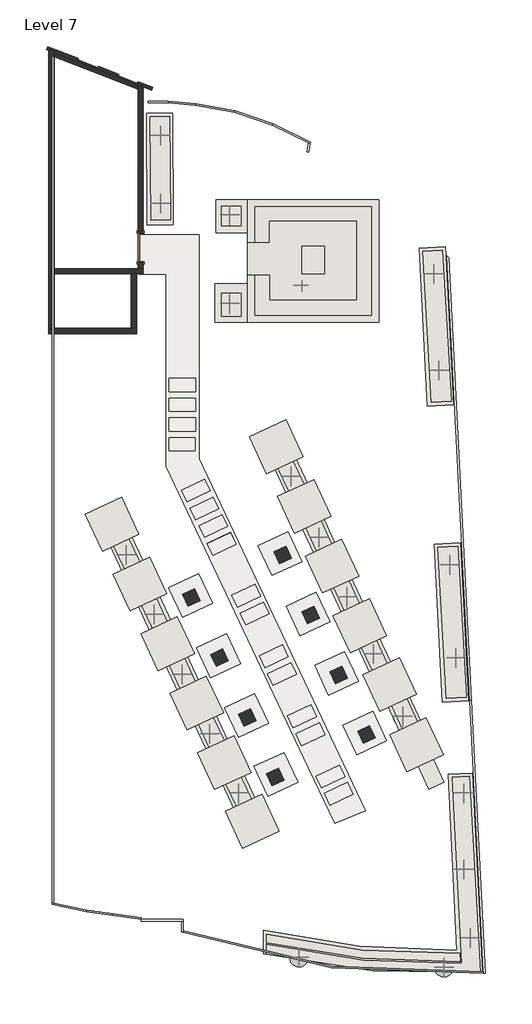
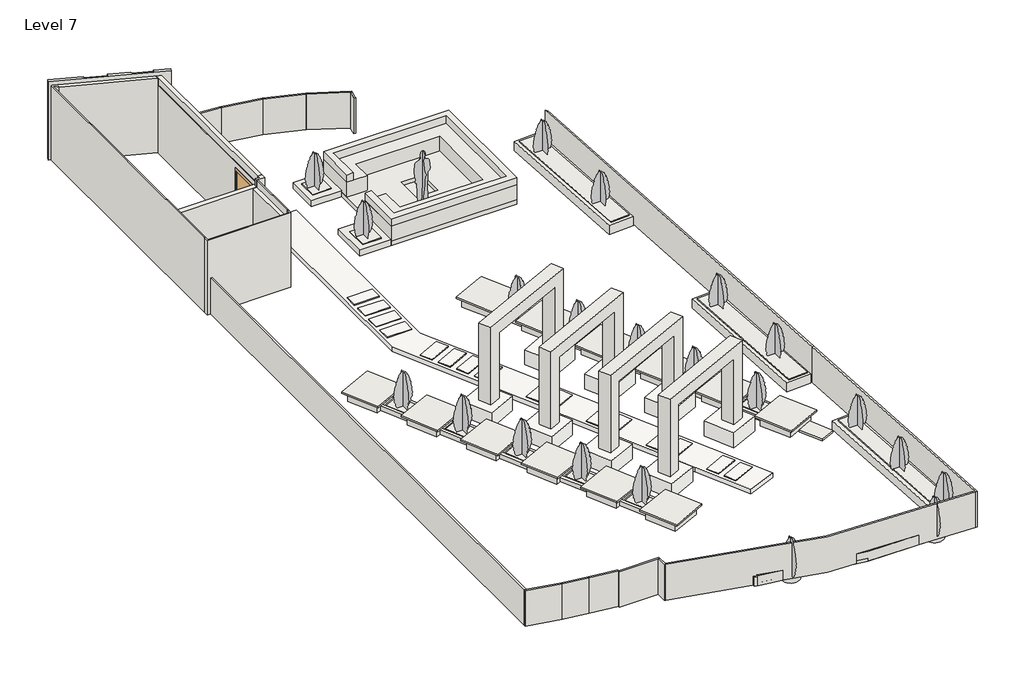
# One storey, incomplete: 27 walls, 23 geographic elements, 3 slabs, 1 door, 1 proxy.
"""IFC4 building model written with IfcOpenShell, lengths in millimetres."""

from ifc_helpers import new_model, si_unit, point, frame, frame_2d, origin, place, context, project, spatial, polyline, circle_curve, trimmed, segment, composite_curve, outline, extrude, faceted_brep, transform, mapped, element, save
from ifc_brep_helpers import plane_surface, cylinder_surface, revolved_surface, advanced_brep
from components import m_rpc_male_e00c4429, m_single_flush_0864_x_2032mm_76ab4baa, m_rpc_tree_conifer_chinese_juniper_2_14_meters_d82f7841, wall_b374dac2, wall_d6dfb486, wall_0885565c, wall_29d2bf6c, wall_ab537ee6, fire_place_fire_place_b6a90d6d

model = new_model("IFC4")

# Units and contexts
model_context = context("Model", 3, world=origin())
ifc_project = project(units=[si_unit("LENGTHUNIT", "METRE", prefix="MILLI")], contexts=[model_context])

# Site, building, storey
site = spatial("IfcSite", under=ifc_project)
building = spatial("IfcBuilding", under=site)
storey = spatial("IfcBuildingStorey", under=building, Name="Level 7", Elevation=25500.0)

# Proxy
placement = place(None, origin())
m_rpc_male_shape = m_rpc_male_e00c4429(model_context)
element("IfcBuildingElementProxy", 1, Name="M_RPC Male : Dwayne", ObjectType="M_RPC Male : Dwayne", at=placement, inside=storey, context=model_context, shape_type="MappedRepresentation", body=[
    mapped(m_rpc_male_shape, transform((7491.7645335, 8007.5417386, 25650.0), x_axis=(-1.0000000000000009, 0.0, 0.0), y_axis=(0.0, -1.0000000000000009, 0.0), z_axis=(0.0, 0.0, 1.0))),
])

# Door
m_single_flush_0864_x_2032mm_shape = m_single_flush_0864_x_2032mm_76ab4baa(model_context)
element("IfcDoor", 2, ObjectType="M_Single-Flush : 0864 x 2032mm", at=placement, inside=storey, context=model_context, shape_type="MappedRepresentation", body=[
    mapped(m_single_flush_0864_x_2032mm_shape, transform((2611.8607589, 9154.692564, 25500.0), x_axis=(0.0, -1.0, 0.0), y_axis=(1.0, 0.0, 0.0), z_axis=(0.0, 0.0, 1.0))),
])

# Geographic elements
m_rpc_tree_conifer_chinese_juniper_2_14_meters_shape = m_rpc_tree_conifer_chinese_juniper_2_14_meters_d82f7841(model_context)
element("IfcGeographicElement", 3, ObjectType="M_RPC Tree - Conifer : Chinese Juniper - 2.14 Meters", at=placement, inside=storey, context=model_context, shape_type="MappedRepresentation", body=[
    mapped(m_rpc_tree_conifer_chinese_juniper_2_14_meters_shape, transform((7170.4565309, 2214.7327762, 25500.0), x_axis=(1.0, 0.0, 0.0), y_axis=(0.0, 1.0, 0.0), z_axis=(0.0, 0.0, 1.0))),
])
element("IfcGeographicElement", 4, ObjectType="M_RPC Tree - Conifer : Chinese Juniper - 2.14 Meters", at=placement, inside=storey, context=model_context, shape_type="MappedRepresentation", body=[
    mapped(m_rpc_tree_conifer_chinese_juniper_2_14_meters_shape, transform((8032.5977848, 365.8648907, 25500.0), x_axis=(1.0, 0.0, 0.0), y_axis=(0.0, 1.0, 0.0), z_axis=(0.0, 0.0, 1.0))),
])
element("IfcGeographicElement", 5, ObjectType="M_RPC Tree - Conifer : Chinese Juniper - 2.14 Meters", at=placement, inside=storey, context=model_context, shape_type="MappedRepresentation", body=[
    mapped(m_rpc_tree_conifer_chinese_juniper_2_14_meters_shape, transform((8877.8343083, -1446.7506834, 25500.0), x_axis=(1.0, 0.0, 0.0), y_axis=(0.0, 1.0, 0.0), z_axis=(0.0, 0.0, 1.0))),
])
element("IfcGeographicElement", 6, ObjectType="M_RPC Tree - Conifer : Chinese Juniper - 2.14 Meters", at=placement, inside=storey, context=model_context, shape_type="MappedRepresentation", body=[
    mapped(m_rpc_tree_conifer_chinese_juniper_2_14_meters_shape, transform((9680.8090056, -3168.7354788, 25500.0), x_axis=(1.0, 0.0, 0.0), y_axis=(0.0, 1.0, 0.0), z_axis=(0.0, 0.0, 1.0))),
])
element("IfcGeographicElement", 7, ObjectType="M_RPC Tree - Conifer : Chinese Juniper - 2.14 Meters", at=placement, inside=storey, context=model_context, shape_type="MappedRepresentation", body=[
    mapped(m_rpc_tree_conifer_chinese_juniper_2_14_meters_shape, transform((10568.3073553, -5071.9818316, 25500.0), x_axis=(1.0, 0.0, 0.0), y_axis=(0.0, 1.0, 0.0), z_axis=(0.0, 0.0, 1.0))),
])
element("IfcGeographicElement", 8, ObjectType="M_RPC Tree - Conifer : Chinese Juniper - 2.14 Meters", at=placement, inside=storey, context=model_context, shape_type="MappedRepresentation", body=[
    mapped(m_rpc_tree_conifer_chinese_juniper_2_14_meters_shape, transform((5583.6145266, -7396.3822711, 25500.0), x_axis=(1.0, 0.0, 0.0), y_axis=(0.0, 1.0, 0.0), z_axis=(0.0, 0.0, 1.0))),
])
element("IfcGeographicElement", 9, ObjectType="M_RPC Tree - Conifer : Chinese Juniper - 2.14 Meters", at=placement, inside=storey, context=model_context, shape_type="MappedRepresentation", body=[
    mapped(m_rpc_tree_conifer_chinese_juniper_2_14_meters_shape, transform((4706.872233, -5598.7941785, 25500.0), x_axis=(1.0, 0.0, 0.0), y_axis=(0.0, 1.0, 0.0), z_axis=(0.0, 0.0, 1.0))),
])
element("IfcGeographicElement", 10, ObjectType="M_RPC Tree - Conifer : Chinese Juniper - 2.14 Meters", at=placement, inside=storey, context=model_context, shape_type="MappedRepresentation", body=[
    mapped(m_rpc_tree_conifer_chinese_juniper_2_14_meters_shape, transform((3861.6357095, -3786.1786045, 25500.0), x_axis=(1.0, 0.0, 0.0), y_axis=(0.0, 1.0, 0.0), z_axis=(0.0, 0.0, 1.0))),
])
element("IfcGeographicElement", 11, ObjectType="M_RPC Tree - Conifer : Chinese Juniper - 2.14 Meters", at=placement, inside=storey, context=model_context, shape_type="MappedRepresentation", body=[
    mapped(m_rpc_tree_conifer_chinese_juniper_2_14_meters_shape, transform((3016.399186, -1973.5630304, 25500.0), x_axis=(1.0, 0.0, 0.0), y_axis=(0.0, 1.0, 0.0), z_axis=(0.0, 0.0, 1.0))),
])
element("IfcGeographicElement", 12, ObjectType="M_RPC Tree - Conifer : Chinese Juniper - 2.14 Meters", at=placement, inside=storey, context=model_context, shape_type="MappedRepresentation", body=[
    mapped(m_rpc_tree_conifer_chinese_juniper_2_14_meters_shape, transform((2171.1626625, -160.9474563, 25500.0), x_axis=(1.0, 0.0, 0.0), y_axis=(0.0, 1.0, 0.0), z_axis=(0.0, 0.0, 1.0))),
])
element("IfcGeographicElement", 13, ObjectType="M_RPC Tree - Conifer : Chinese Juniper - 2.14 Meters", at=placement, inside=storey, context=model_context, shape_type="MappedRepresentation", body=[
    mapped(m_rpc_tree_conifer_chinese_juniper_2_14_meters_shape, transform((12003.8470008, -465.2672238, 25500.0), x_axis=(1.0, 0.0, 0.0), y_axis=(0.0, 1.0, 0.0), z_axis=(0.0, 0.0, 1.0))),
])
element("IfcGeographicElement", 14, ObjectType="M_RPC Tree - Conifer : Chinese Juniper - 2.14 Meters", at=placement, inside=storey, context=model_context, shape_type="MappedRepresentation", body=[
    mapped(m_rpc_tree_conifer_chinese_juniper_2_14_meters_shape, transform((12183.8470008, -3288.7354788, 25500.0), x_axis=(1.0, 0.0, 0.0), y_axis=(0.0, 1.0, 0.0), z_axis=(0.0, 0.0, 1.0))),
])
element("IfcGeographicElement", 15, ObjectType="M_RPC Tree - Conifer : Chinese Juniper - 2.14 Meters", at=placement, inside=storey, context=model_context, shape_type="MappedRepresentation", body=[
    mapped(m_rpc_tree_conifer_chinese_juniper_2_14_meters_shape, transform((12622.8617757, -11792.4582614, 25500.0), x_axis=(1.0, 0.0, 0.0), y_axis=(0.0, 1.0, 0.0), z_axis=(0.0, 0.0, 1.0))),
])
element("IfcGeographicElement", 16, ObjectType="M_RPC Tree - Conifer : Chinese Juniper - 2.14 Meters", at=placement, inside=storey, context=model_context, shape_type="MappedRepresentation", body=[
    mapped(m_rpc_tree_conifer_chinese_juniper_2_14_meters_shape, transform((12422.8617757, -9712.4582614, 25500.0), x_axis=(1.0, 0.0, 0.0), y_axis=(0.0, 1.0, 0.0), z_axis=(0.0, 0.0, 1.0))),
])
element("IfcGeographicElement", 17, ObjectType="M_RPC Tree - Conifer : Chinese Juniper - 2.14 Meters", at=placement, inside=storey, context=model_context, shape_type="MappedRepresentation", body=[
    mapped(m_rpc_tree_conifer_chinese_juniper_2_14_meters_shape, transform((12422.8617757, -7396.3822711, 25500.0), x_axis=(1.0, 0.0, 0.0), y_axis=(0.0, 1.0, 0.0), z_axis=(0.0, 0.0, 1.0))),
])
element("IfcGeographicElement", 18, ObjectType="M_RPC Tree - Conifer : Chinese Juniper - 2.14 Meters", at=placement, inside=storey, context=model_context, shape_type="MappedRepresentation", body=[
    mapped(m_rpc_tree_conifer_chinese_juniper_2_14_meters_shape, transform((11822.8617757, -12686.9456492, 25500.0), x_axis=(1.0, 0.0, 0.0), y_axis=(0.0, 1.0, 0.0), z_axis=(0.0, 0.0, 1.0))),
])
element("IfcGeographicElement", 19, ObjectType="M_RPC Tree - Conifer : Chinese Juniper - 2.14 Meters", at=placement, inside=storey, context=model_context, shape_type="MappedRepresentation", body=[
    mapped(m_rpc_tree_conifer_chinese_juniper_2_14_meters_shape, transform((7422.8617757, -12386.9456492, 25500.0), x_axis=(1.0, 0.0, 0.0), y_axis=(0.0, 1.0, 0.0), z_axis=(0.0, 0.0, 1.0))),
])
element("IfcGeographicElement", 20, ObjectType="M_RPC Tree - Conifer : Chinese Juniper - 2.14 Meters", at=placement, inside=storey, context=model_context, shape_type="MappedRepresentation", body=[
    mapped(m_rpc_tree_conifer_chinese_juniper_2_14_meters_shape, transform((11516.6863407, 8359.6937664, 25500.0), x_axis=(1.0, 0.0, 0.0), y_axis=(0.0, 1.0, 0.0), z_axis=(0.0, 0.0, 1.0))),
])
element("IfcGeographicElement", 21, ObjectType="M_RPC Tree - Conifer : Chinese Juniper - 2.14 Meters", at=placement, inside=storey, context=model_context, shape_type="MappedRepresentation", body=[
    mapped(m_rpc_tree_conifer_chinese_juniper_2_14_meters_shape, transform((11670.4565309, 5439.689555, 25500.0), x_axis=(1.0, 0.0, 0.0), y_axis=(0.0, 1.0, 0.0), z_axis=(0.0, 0.0, 1.0))),
])
element("IfcGeographicElement", 22, ObjectType="M_RPC Tree - Conifer : Chinese Juniper - 2.14 Meters", at=placement, inside=storey, context=model_context, shape_type="MappedRepresentation", body=[
    mapped(m_rpc_tree_conifer_chinese_juniper_2_14_meters_shape, transform((5308.6187034, 10145.363824, 25500.0), x_axis=(1.0, 0.0, 0.0), y_axis=(0.0, 1.0, 0.0), z_axis=(0.0, 0.0, 1.0))),
])
element("IfcGeographicElement", 23, ObjectType="M_RPC Tree - Conifer : Chinese Juniper - 2.14 Meters", at=placement, inside=storey, context=model_context, shape_type="MappedRepresentation", body=[
    mapped(m_rpc_tree_conifer_chinese_juniper_2_14_meters_shape, transform((5308.6187034, 7459.6937664, 25500.0), x_axis=(1.0, 0.0, 0.0), y_axis=(0.0, 1.0, 0.0), z_axis=(0.0, 0.0, 1.0))),
])
element("IfcGeographicElement", 24, ObjectType="M_RPC Tree - Conifer : Chinese Juniper - 2.14 Meters", at=placement, inside=storey, context=model_context, shape_type="MappedRepresentation", body=[
    mapped(m_rpc_tree_conifer_chinese_juniper_2_14_meters_shape, transform((3209.9147134, 12563.9165801, 25500.0), x_axis=(1.0, 0.0, 0.0), y_axis=(0.0, 1.0, 0.0), z_axis=(0.0, 0.0, 1.0))),
])
element("IfcGeographicElement", 25, ObjectType="M_RPC Tree - Conifer : Chinese Juniper - 2.14 Meters", at=placement, inside=storey, context=model_context, shape_type="MappedRepresentation", body=[
    mapped(m_rpc_tree_conifer_chinese_juniper_2_14_meters_shape, transform((3209.9147134, 10507.9905704, 25500.0), x_axis=(1.0, 0.0, 0.0), y_axis=(0.0, 1.0, 0.0), z_axis=(0.0, 0.0, 1.0))),
])

# Slabs
element("IfcSlab", 26, ObjectType="sang baam", at=placement, inside=storey, context=model_context, shape_type="SweptSolid", body=[
    extrude(outline(polyline([(4278.6366048, 5185.9149632), (4278.6366048, 4785.9149632), (3478.6366048, 4785.9149632), (3478.6366048, 5185.9149632), (4278.6366048, 5185.9149632)])), frame((0.0, 0.0, 25475.0), z_axis=(0.0, 0.0, 1.0), x_axis=(1.0, 0.0, 0.0)), (0.0, 0.0, 1.0), 150.0),
    extrude(outline(polyline([(4278.6366048, 4185.9149632), (3478.6366048, 4185.9149632), (3478.6366048, 4585.9149632), (4278.6366048, 4585.9149632), (4278.6366048, 4185.9149632)])), frame((0.0, 0.0, 25475.0), z_axis=(0.0, 0.0, 1.0), x_axis=(1.0, 0.0, 0.0)), (0.0, 0.0, 1.0), 150.0),
    extrude(outline(polyline([(4278.6366048, 3985.9149632), (4278.6366048, 3585.9149632), (3478.6366048, 3585.9149632), (3478.6366048, 3985.9149632), (4278.6366048, 3985.9149632)])), frame((0.0, 0.0, 25475.0), z_axis=(0.0, 0.0, 1.0), x_axis=(1.0, 0.0, 0.0)), (0.0, 0.0, 1.0), 150.0),
    extrude(outline(polyline([(4265.8358366, 3385.9149632), (4265.8358366, 2985.9149632), (3478.6366048, 2985.9149632), (3478.6366048, 3385.9149632), (4265.8358366, 3385.9149632)])), frame((0.0, 0.0, 25475.0), z_axis=(0.0, 0.0, 1.0), x_axis=(1.0, 0.0, 0.0)), (0.0, 0.0, 1.0), 150.0),
    extrude(outline(polyline([(4552.7342706, 2127.1871286), (4721.7979034, 1769.866119), (4016.7346001, 1436.2709478), (3847.6709673, 1793.5919574), (4552.7342706, 2127.1871286)])), frame((0.0, 0.0, 25475.0), z_axis=(0.0, 0.0, 1.0), x_axis=(1.0, 0.0, 0.0)), (0.0, 0.0, 1.0), 150.0),
    extrude(outline(polyline([(4809.350617, 1584.8208582), (4978.4142498, 1227.4998485), (4273.3509464, 893.9046773), (4104.2873137, 1251.2256869), (4809.350617, 1584.8208582)])), frame((0.0, 0.0, 25475.0), z_axis=(0.0, 0.0, 1.0), x_axis=(1.0, 0.0, 0.0)), (0.0, 0.0, 1.0), 150.0),
    extrude(outline(polyline([(5083.125758, 1048.4595597), (5252.1893908, 691.1385501), (4547.1260874, 357.5433788), (4378.0624547, 714.8643885), (5083.125758, 1048.4595597)])), frame((0.0, 0.0, 25475.0), z_axis=(0.0, 0.0, 1.0), x_axis=(1.0, 0.0, 0.0)), (0.0, 0.0, 1.0), 150.0),
    extrude(outline(polyline([(5338.8742043, 507.9276219), (5507.9378371, 150.6066122), (4802.8745337, -182.988559), (4633.8109009, 174.3324506), (5338.8742043, 507.9276219)])), frame((0.0, 0.0, 25475.0), z_axis=(0.0, 0.0, 1.0), x_axis=(1.0, 0.0, 0.0)), (0.0, 0.0, 1.0), 150.0),
    extrude(outline(polyline([(6083.0480478, -1064.905901), (6252.1116806, -1422.2269106), (5547.0483773, -1755.8220819), (5377.9847445, -1398.5010722), (6083.0480478, -1064.905901)])), frame((0.0, 0.0, 25475.0), z_axis=(0.0, 0.0, 1.0), x_axis=(1.0, 0.0, 0.0)), (0.0, 0.0, 1.0), 150.0),
    extrude(outline(polyline([(6340.411079, -1605.1202013), (6509.4747118, -1962.441211), (5804.4114085, -2296.0363822), (5635.3477757, -1938.7153726), (6340.411079, -1605.1202013)])), frame((0.0, 0.0, 25475.0), z_axis=(0.0, 0.0, 1.0), x_axis=(1.0, 0.0, 0.0)), (0.0, 0.0, 1.0), 150.0),
    extrude(outline(polyline([(6917.9771122, -2902.3547512), (7087.040745, -3259.6757608), (6381.9774416, -3593.2709321), (6212.9138088, -3235.9499224), (6917.9771122, -2902.3547512)])), frame((0.0, 0.0, 25475.0), z_axis=(0.0, 0.0, 1.0), x_axis=(1.0, 0.0, 0.0)), (0.0, 0.0, 1.0), 150.0),
    extrude(outline(polyline([(7172.0228671, -3439.2880002), (7341.0864999, -3796.6090098), (6636.0231965, -4130.2041811), (6466.9595637, -3772.8831714), (7172.0228671, -3439.2880002)])), frame((0.0, 0.0, 25475.0), z_axis=(0.0, 0.0, 1.0), x_axis=(1.0, 0.0, 0.0)), (0.0, 0.0, 1.0), 150.0),
    extrude(outline(polyline([(7779.4658428, -4723.1367726), (7948.5294756, -5080.4577822), (7243.4661723, -5414.0529534), (7074.4025395, -5056.7319438), (7779.4658428, -4723.1367726)])), frame((0.0, 0.0, 25475.0), z_axis=(0.0, 0.0, 1.0), x_axis=(1.0, 0.0, 0.0)), (0.0, 0.0, 1.0), 150.0),
    extrude(outline(polyline([(8036.0821892, -5265.503043), (8205.145822, -5622.8240527), (7500.0825186, -5956.4192239), (7331.0188859, -5599.0982143), (8036.0821892, -5265.503043)])), frame((0.0, 0.0, 25475.0), z_axis=(0.0, 0.0, 1.0), x_axis=(1.0, 0.0, 0.0)), (0.0, 0.0, 1.0), 150.0),
    extrude(outline(polyline([(8642.9907713, -6548.2223587), (8812.0544041, -6905.5433683), (8106.9911008, -7239.1385396), (7937.927468, -6881.8175299), (8642.9907713, -6548.2223587)])), frame((0.0, 0.0, 25475.0), z_axis=(0.0, 0.0, 1.0), x_axis=(1.0, 0.0, 0.0)), (0.0, 0.0, 1.0), 150.0),
    extrude(outline(polyline([(8891.0487192, -7072.5001996), (9060.112352, -7429.8212093), (8355.0490486, -7763.4163805), (8185.9854159, -7406.0953709), (8891.0487192, -7072.5001996)])), frame((0.0, 0.0, 25475.0), z_axis=(0.0, 0.0, 1.0), x_axis=(1.0, 0.0, 0.0)), (0.0, 0.0, 1.0), 150.0),
])
element("IfcSlab", 27, ObjectType="payeh", at=placement, inside=storey, context=model_context, shape_type="SweptSolid", body=[
    extrude(outline(polyline([(7088.587066, 527.1547555), (7508.8456465, -374.0926787), (6602.5378594, -796.7109405), (6182.2792789, 104.5364938), (7088.587066, 527.1547555)])), frame((0.0, 0.0, 25500.0), z_axis=(0.0, 0.0, 1.0), x_axis=(1.0, 0.0, 0.0)), (0.0, 0.0, 1.0), 500.0),
    extrude(outline(polyline([(4369.6210852, -740.7199036), (4789.8796657, -1641.9673378), (3883.5718787, -2064.5855996), (3463.3132982, -1163.3381653), (4369.6210852, -740.7199036)])), frame((0.0, 0.0, 25500.0), z_axis=(0.0, 0.0, 1.0), x_axis=(1.0, 0.0, 0.0)), (0.0, 0.0, 1.0), 500.0),
    extrude(outline(polyline([(5221.9698864, -2568.5878064), (5642.2284669, -3469.8352407), (4735.9206799, -3892.4535024), (4315.6620994, -2991.2060682), (5221.9698864, -2568.5878064)])), frame((0.0, 0.0, 25500.0), z_axis=(0.0, 0.0, 1.0), x_axis=(1.0, 0.0, 0.0)), (0.0, 0.0, 1.0), 500.0),
    extrude(outline(polyline([(7940.9358672, -1300.7131473), (8361.1944477, -2201.9605816), (7454.8866606, -2624.5788433), (7034.6280801, -1723.3314091), (7940.9358672, -1300.7131473)])), frame((0.0, 0.0, 25500.0), z_axis=(0.0, 0.0, 1.0), x_axis=(1.0, 0.0, 0.0)), (0.0, 0.0, 1.0), 500.0),
    extrude(outline(polyline([(6067.2196591, -4381.2317935), (6487.4782396, -5282.4792278), (5581.1704526, -5705.0974895), (5160.9118721, -4803.8500553), (6067.2196591, -4381.2317935)])), frame((0.0, 0.0, 25500.0), z_axis=(0.0, 0.0, 1.0), x_axis=(1.0, 0.0, 0.0)), (0.0, 0.0, 1.0), 500.0),
    extrude(outline(polyline([(8806.5694363, -3103.8520141), (9226.8280168, -4005.0994483), (8320.5202298, -4427.7177101), (7900.2616493, -3526.4702758), (8806.5694363, -3103.8520141)])), frame((0.0, 0.0, 25500.0), z_axis=(0.0, 0.0, 1.0), x_axis=(1.0, 0.0, 0.0)), (0.0, 0.0, 1.0), 500.0),
    extrude(outline(polyline([(6964.7623178, -6169.1338118), (7385.0208983, -7070.3812461), (6478.7131113, -7492.9995078), (6058.4545308, -6591.7520736), (6964.7623178, -6169.1338118)])), frame((0.0, 0.0, 25500.0), z_axis=(0.0, 0.0, 1.0), x_axis=(1.0, 0.0, 0.0)), (0.0, 0.0, 1.0), 500.0),
    extrude(outline(polyline([(9661.8299525, -4911.4705192), (10082.088533, -5812.7179535), (9175.780746, -6235.3362152), (8755.5221655, -5334.0887809), (9661.8299525, -4911.4705192)])), frame((0.0, 0.0, 25500.0), z_axis=(0.0, 0.0, 1.0), x_axis=(1.0, 0.0, 0.0)), (0.0, 0.0, 1.0), 500.0),
])
element("IfcSlab", 28, ObjectType="grass", at=placement, inside=storey, context=model_context, shape_type="SweptSolid", body=[
    extrude(outline(polyline([(3378.6366048, 2522.873552), (3378.6366048, 8347.5071892), (2578.6366048, 8347.5071892), (2578.6366048, 9547.5071892), (4378.6366048, 9547.5071892), (4378.6366048, 2747.5071892), (5837.237152, -335.2883929), (9432.2264805, -7933.4051223), (8508.0161436, -8318.2224636), (7713.2695999, -6638.5020368), (3378.6366048, 2522.873552)]), holes=[polyline([(4278.6366048, 5185.9149632), (3478.6366048, 5185.9149632), (3478.6366048, 4785.9149632), (4278.6366048, 4785.9149632), (4278.6366048, 5185.9149632)]), polyline([(4278.6366048, 4585.9149632), (3478.6366048, 4585.9149632), (3478.6366048, 4185.9149632), (4278.6366048, 4185.9149632), (4278.6366048, 4585.9149632)]), polyline([(4278.6366048, 3985.9149632), (3478.6366048, 3985.9149632), (3478.6366048, 3585.9149632), (4278.6366048, 3585.9149632), (4278.6366048, 3985.9149632)]), polyline([(4265.8358366, 3385.9149632), (3478.6366048, 3385.9149632), (3478.6366048, 2985.9149632), (4265.8358366, 2985.9149632), (4265.8358366, 3385.9149632)]), polyline([(4552.7342706, 2127.1871286), (3847.6709673, 1793.5919574), (4016.7346001, 1436.2709478), (4721.7979034, 1769.866119), (4552.7342706, 2127.1871286)]), polyline([(4809.350617, 1584.8208582), (4104.2873137, 1251.2256869), (4273.3509464, 893.9046773), (4978.4142498, 1227.4998485), (4809.350617, 1584.8208582)]), polyline([(5083.6999081, 1050.9761871), (4378.6366048, 717.3810158), (4547.7002375, 360.0600062), (5252.7635409, 693.6551774), (5083.6999081, 1050.9761871)]), polyline([(5340.3162545, 508.6099166), (4635.2529511, 175.0147454), (4804.3165839, -182.3062643), (5509.3798873, 151.288907), (5340.3162545, 508.6099166)]), polyline([(6083.7947326, -1062.7539309), (5378.7314293, -1396.3491021), (5547.7950621, -1753.6701118), (6252.8583654, -1420.0749405), (6083.7947326, -1062.7539309)]), polyline([(6340.411079, -1605.1202013), (5635.3477757, -1938.7153726), (5804.4114085, -2296.0363822), (6509.4747118, -1962.441211), (6340.411079, -1605.1202013)]), polyline([(6917.9771122, -2902.3547512), (6212.9138088, -3235.9499224), (6381.9774416, -3593.2709321), (7087.040745, -3259.6757608), (6917.9771122, -2902.3547512)]), polyline([(7172.0228671, -3439.2880002), (6466.9595637, -3772.8831714), (6636.0231965, -4130.2041811), (7341.0864999, -3796.6090098), (7172.0228671, -3439.2880002)]), polyline([(7779.4658428, -4723.1367726), (7074.4025395, -5056.7319438), (7243.4661723, -5414.0529534), (7948.5294756, -5080.4577822), (7779.4658428, -4723.1367726)]), polyline([(8036.0821892, -5265.503043), (7331.0188859, -5599.0982143), (7500.0825186, -5956.4192239), (8205.145822, -5622.8240527), (8036.0821892, -5265.503043)]), polyline([(8642.9907713, -6548.2223587), (7937.927468, -6881.8175299), (8106.9911008, -7239.1385396), (8812.0544041, -6905.5433683), (8642.9907713, -6548.2223587)]), polyline([(8891.0487192, -7072.5001996), (8185.9854159, -7406.0953709), (8355.0490486, -7763.4163805), (9060.112352, -7429.8212093), (8891.0487192, -7072.5001996)])]), frame((0.0, 0.0, 25450.0), z_axis=(0.0, 0.0, 1.0), x_axis=(1.0, 0.0, 0.0)), (0.0, 0.0, 1.0), 150.0),
])

# Walls
element("IfcWall", 29, ObjectType="kamposite5cm", at=placement, inside=storey, context=model_context, shape_type="SweptSolid", body=[
    extrude(outline(polyline([(3435.8523373, 13549.3570533), (2839.9587442, 13549.3570533), (2839.9587442, 13599.3570533), (3438.1784244, 13599.3570533), (3435.8523373, 13549.3570533)])), frame((0.0, 0.0, 25500.0), z_axis=(0.0, 0.0, 1.0), x_axis=(1.0, 0.0, 0.0)), (0.0, 0.0, 1.0), 1200.0),
])
element("IfcWall", 30, ObjectType="kamposite5cm", at=placement, inside=storey, context=model_context, shape_type="SweptSolid", body=[
    extrude(outline(polyline([(4269.1073285, 13471.6599488), (3435.8523373, 13549.3570533), (3438.1784244, 13599.3570533), (4275.7806873, 13521.2545862), (4269.1073285, 13471.6599488)])), frame((0.0, 0.0, 25500.0), z_axis=(0.0, 0.0, 1.0), x_axis=(1.0, 0.0, 0.0)), (0.0, 0.0, 1.0), 1200.0),
])
element("IfcWall", 31, ObjectType="kamposite5cm", at=placement, inside=storey, context=model_context, shape_type="SweptSolid", body=[
    extrude(outline(polyline([(5464.6884346, 13260.8467422), (4269.1073285, 13471.6599488), (4275.7806873, 13521.2545862), (5477.246146, 13309.4038095), (5464.6884346, 13260.8467422)])), frame((0.0, 0.0, 25500.0), z_axis=(0.0, 0.0, 1.0), x_axis=(1.0, 0.0, 0.0)), (0.0, 0.0, 1.0), 1200.0),
])
element("IfcWall", 32, ObjectType="kamposite5cm", at=placement, inside=storey, context=model_context, shape_type="SweptSolid", body=[
    extrude(outline(polyline([(6611.6088808, 12865.9303623), (5464.6884346, 13260.8467422), (5477.246146, 13309.4038095), (6630.7788082, 12912.210661), (6611.6088808, 12865.9303623)])), frame((0.0, 0.0, 25500.0), z_axis=(0.0, 0.0, 1.0), x_axis=(1.0, 0.0, 0.0)), (0.0, 0.0, 1.0), 1200.0),
])
element("IfcWall", 33, ObjectType="kamposite5cm", at=placement, inside=storey, context=model_context, shape_type="Brep", body=[
    faceted_brep([(6611.6088808, 12865.9303623, 25500.0), (7708.4069732, 12330.9861896, 25500.0), (7755.1577202, 12308.1843268, 25500.0), (7755.1577202, 12308.1843268, 26700.0), (7708.4069732, 12330.9861896, 26700.0), (6611.6088808, 12865.9303623, 26700.0), (6630.7788082, 12912.210661, 25500.0), (6630.7788082, 12912.210661, 26700.0), (7764.1900252, 12359.4090743, 26700.0), (7764.1900252, 12359.4090743, 25500.0)], [[[0, 1, 2, 3, 4, 5]], [[6, 7, 8, 9]], [[2, 1, 0, 6, 9]], [[5, 4, 3, 8, 7]], [[0, 5, 7, 6]], [[3, 2, 9, 8]]]),
])
element("IfcWall", 34, ObjectType="kamposite5cm", at=placement, inside=storey, context=model_context, shape_type="AdvancedBrep", body=[
    advanced_brep(
    [(7708.4069732, 12330.9861896, 25500.0), (7661.1052664, 12062.7248799, 25500.0), (7661.1052664, 12062.7248799, 26700.0), (7708.4069732, 12330.9861896, 26700.0), (7755.1577202, 12308.1843268, 25500.0), (7755.1577202, 12308.1843268, 26700.0), (7717.6351631, 12095.3833312, 26700.0), (7708.8153744, 12045.363824, 26700.0), (7708.8153744, 12045.363824, 25500.0), (7717.6351631, 12095.3833312, 25500.0)],
    [
        (0, 1),
        (1, 2),
        (2, 3),
        (3, 0),
        (4, 5),
        (5, 6),
        (6, 7),
        (7, 8),
        (8, 9),
        (9, 4),
        (0, 4),
        (8, 1, circle_curve(frame((4535.6080259, 3399.2748166, 25500.0), z_axis=(0.0, 0.0, 1.0), x_axis=(1.0, 0.0, 0.0)), 9210.0)),
        (2, 7, circle_curve(frame((4535.6080259, 3399.2748166, 26700.0), z_axis=(0.0, 0.0, -1.0), x_axis=(1.0, 0.0, 0.0)), 9210.0)),
        (5, 3),
    ],
    [
        plane_surface(frame((7668.3947755, 12104.0657401, 25500.0), z_axis=(-0.984807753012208, 0.17364817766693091, 0.0), x_axis=(-0.17364817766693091, -0.984807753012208, 0.0))),
        plane_surface(frame((7717.6351631, 12095.3833312, 25500.0), z_axis=(0.984807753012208, -0.17364817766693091, 0.0), x_axis=(0.17364817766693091, 0.984807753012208, 0.0))),
        plane_surface(frame((7711.6783054, 12349.5388364, 25500.0), z_axis=(0.0, 0.0, -1.0), x_axis=(0.9848077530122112, -0.17364817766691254, 0.0))),
        plane_surface(frame((7664.7542263, 12083.41916, 26700.0), z_axis=(0.0, 0.0, 1.0), x_axis=(0.9848077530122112, -0.17364817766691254, 0.0))),
        plane_surface(frame((7742.2714679, 12314.4693719, 25500.0), z_axis=(0.4383711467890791, 0.8987940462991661, 0.0), x_axis=(0.8987940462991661, -0.4383711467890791, 0.0))),
        revolved_surface(polyline([(13745.608025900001, 3399.2748166, 25500.0), (13745.608025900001, 3399.2748166, 26700.0)]), (4535.6080259, 3399.2748166, 25500.0), (0.0, 0.0, -1.0)),
    ],
    [
        (0, [[1, 2, 3, 4]]),
        (1, [[5, 6, 7, 8, 9, 10]]),
        (2, [[-1, 11, -10, -9, 12]]),
        (3, [[-3, 13, -7, -6, 14]]),
        (4, [[-4, -14, -5, -11]]),
        (5, [[-2, -12, -8, -13]]),
    ],
),
])
element("IfcWall", 35, ObjectType="kamposite5cm", at=placement, inside=storey, context=model_context, shape_type="SweptSolid", body=[
    extrude(outline(composite_curve([segment(polyline([(12604.0436719, -4592.4582614), (11916.8830118, 8907.530401)]), True, "CONTINUOUS"), segment(trimmed(circle_curve(frame_2d((4535.6080259, 3399.2748166)), 9210.0), [point((11916.8830118, 8907.530401))], [point((11970.6532019, 8834.7327762))], False, "CARTESIAN"), True, "CONTINUOUS"), segment(polyline([(11970.6532019, 8834.7327762), (12653.9790251, -4589.9165104), (12604.0436719, -4592.4582614)]), True, "CONTINUOUS")], self_intersect=False)), frame((0.0, 0.0, 25500.0), z_axis=(0.0, 0.0, 1.0), x_axis=(1.0, 0.0, 0.0)), (0.0, 0.0, 1.0), 1200.0),
])
element("IfcWall", 36, ObjectType="kamposite5cm", at=placement, inside=storey, context=model_context, shape_type="AdvancedBrep", body=[
    advanced_brep(
    [(12604.0436719, -4592.4582614, 25500.0), (13023.0584468, -12824.441027, 25500.0), (13025.6002961, -12874.3783117, 25500.0), (13025.6002961, -12874.3783117, 26700.0), (13023.0584468, -12824.441027, 26700.0), (12604.0436719, -4592.4582614, 26700.0), (12653.9790251, -4589.9165104, 25500.0), (12653.9790251, -4589.9165104, 26700.0), (13075.5106422, -12871.3452698, 26700.0), (13075.5106422, -12871.3452698, 25500.0)],
    [
        (0, 1),
        (1, 2),
        (2, 3),
        (3, 4),
        (4, 5),
        (5, 0),
        (6, 7),
        (7, 8),
        (8, 9),
        (9, 6),
        (0, 6),
        (9, 2, circle_curve(frame((11609.3245394, 10843.3737526, 25500.0), z_axis=(0.0, 0.0, -1.0), x_axis=(1.0, 0.0, 0.0)), 23760.0)),
        (3, 8, circle_curve(frame((11609.3245394, 10843.3737526, 26700.0), z_axis=(0.0, 0.0, 1.0), x_axis=(1.0, 0.0, 0.0)), 23760.0)),
        (7, 5),
    ],
    [
        plane_surface(frame((13025.575289, -12873.8870209, 25500.0), z_axis=(-0.9987070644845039, -0.0508350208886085, 0.0), x_axis=(0.0508350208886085, -0.9987070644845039, 0.0))),
        plane_surface(frame((13075.5106422, -12871.3452698, 25500.0), z_axis=(0.9987070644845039, 0.0508350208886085, 0.0), x_axis=(-0.0508350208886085, 0.9987070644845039, 0.0))),
        plane_surface(frame((12604.0436719, -4592.4582614, 25500.0), z_axis=(0.0, 0.0, -1.0000000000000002), x_axis=(0.9987070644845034, 0.05083502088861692, 0.0))),
        plane_surface(frame((13024.3175242, -12849.1769173, 26700.0), z_axis=(0.0, 0.0, 1.0000000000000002), x_axis=(0.9987070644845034, 0.05083502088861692, 0.0))),
        plane_surface(frame((12604.0436719, -4592.4582614, 26700.0), z_axis=(-0.05083502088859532, 0.9987070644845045, 0.0), x_axis=(0.9987070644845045, 0.05083502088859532, 0.0))),
        cylinder_surface(frame((11609.3245394, 10843.3737526, 25500.0), z_axis=(0.0, 0.0, 1.0), x_axis=(1.0, 0.0, 0.0)), 23760.0),
    ],
    [
        (0, [[1, 2, 3, 4, 5, 6]]),
        (1, [[7, 8, 9, 10]]),
        (2, [[-2, -1, 11, -10, 12]]),
        (3, [[-5, -4, 13, -8, 14]]),
        (4, [[-6, -14, -7, -11]]),
        (5, [[-3, -12, -9, -13]]),
    ],
),
])
element("IfcWall", 37, ObjectType="kamposite5cm", at=placement, inside=storey, context=model_context, shape_type="Brep", body=[
    faceted_brep([(2620.252741, -11286.9456492, 25500.0), (3850.252741, -11286.9456492, 25500.0), (3900.252741, -11286.9456492, 25500.0), (3900.252741, -11286.9456492, 26700.0), (3850.252741, -11286.9456492, 26700.0), (2620.252741, -11286.9456492, 26700.0), (2620.252741, -11236.9456492, 25500.0), (2620.252741, -11236.9456492, 26700.0), (3900.252741, -11236.9456492, 26700.0), (3900.252741, -11236.9456492, 25500.0)], [[[0, 1, 2, 3, 4, 5]], [[6, 7, 8, 9]], [[2, 1, 0, 6, 9]], [[5, 4, 3, 8, 7]], [[0, 5, 7, 6]], [[3, 2, 9, 8]]]),
])
element("IfcWall", 38, ObjectType="kamposite5cm", at=placement, inside=storey, context=model_context, shape_type="AdvancedBrep", body=[
    advanced_brep(
    [(3900.252741, -11631.2299593, 25500.0), (3900.252741, -11578.363736, 25500.0), (3900.252741, -11286.9456492, 25500.0), (3900.252741, -11286.9456492, 26700.0), (3900.252741, -11578.363736, 26700.0), (3900.252741, -11631.2299593, 26700.0), (3850.252741, -11614.0171205, 25500.0), (3850.252741, -11614.0171205, 26700.0), (3850.252741, -11286.9456492, 26700.0), (3850.252741, -11286.9456492, 25500.0)],
    [
        (0, 1),
        (1, 2),
        (2, 3),
        (3, 4),
        (4, 5),
        (5, 0),
        (6, 7),
        (7, 8),
        (8, 9),
        (9, 6),
        (0, 6, circle_curve(frame((11609.3245394, 10843.3737526, 25500.0), z_axis=(0.0, 0.0, -1.0), x_axis=(1.0, 0.0, 0.0)), 23760.0)),
        (9, 2),
        (3, 8),
        (7, 5, circle_curve(frame((11609.3245394, 10843.3737526, 26700.0), z_axis=(0.0, 0.0, 1.0), x_axis=(1.0, 0.0, 0.0)), 23760.0)),
    ],
    [
        plane_surface(frame((3900.252741, -11236.9456492, 25500.0), z_axis=(1.0, 0.0, 0.0), x_axis=(0.0, 1.0, 0.0))),
        plane_surface(frame((3850.252741, -11236.9456492, 25500.0), z_axis=(-1.0, 0.0, 0.0), x_axis=(0.0, -1.0, 0.0))),
        plane_surface(frame((3900.252741, -11596.1975093, 25500.0), z_axis=(0.0, 0.0, -1.0), x_axis=(-1.0, 0.0, 0.0))),
        plane_surface(frame((3900.252741, -11261.9456492, 26700.0), z_axis=(0.0, 0.0, 1.0), x_axis=(-1.0, 0.0, 0.0))),
        cylinder_surface(frame((11609.3245394, 10843.3737526, 25500.0), z_axis=(0.0, 0.0, 1.0), x_axis=(1.0, 0.0, 0.0)), 23760.0),
        plane_surface(frame((2620.252741, -11286.9456492, 25500.0), z_axis=(0.0, 1.0, 0.0), x_axis=(1.0, 0.0, 0.0))),
    ],
    [
        (0, [[1, 2, 3, 4, 5, 6]]),
        (1, [[7, 8, 9, 10]]),
        (2, [[-2, -1, 11, -10, 12]]),
        (3, [[-5, -4, 13, -8, 14]]),
        (4, [[-6, -14, -7, -11]]),
        (5, [[-3, -12, -9, -13]]),
    ],
),
])
element("IfcWall", 39, ObjectType="kamposite5cm", at=placement, inside=storey, context=model_context, shape_type="SweptSolid", body=[
    extrude(outline(polyline([(1753.4186687, -11064.6286865), (2627.211396, -11187.4322458), (2620.252741, -11236.9456492), (1746.4600136, -11114.1420899), (1753.4186687, -11064.6286865)])), frame((0.0, 0.0, 25500.0), z_axis=(0.0, 0.0, 1.0), x_axis=(1.0, 0.0, 0.0)), (0.0, 0.0, 1.0), 1200.0),
])
element("IfcWall", 40, ObjectType="kamposite5cm", at=placement, inside=storey, context=model_context, shape_type="SweptSolid", body=[
    extrude(outline(polyline([(982.7386212, -10956.3166693), (1753.4186687, -11064.6286865), (1746.4600136, -11114.1420899), (974.05092, -11005.5870712), (982.7386212, -10956.3166693)])), frame((0.0, 0.0, 25500.0), z_axis=(0.0, 0.0, 1.0), x_axis=(1.0, 0.0, 0.0)), (0.0, 0.0, 1.0), 1200.0),
])
element("IfcWall", 41, ObjectType="kamposite5cm", at=placement, inside=storey, context=model_context, shape_type="Brep", body=[
    faceted_brep([(982.7386212, -10956.3166693, 25500.0), (-30.0421304, -10741.0434751, 25500.0), (-80.0421304, -10730.415647, 25500.0), (-80.0421304, -10730.415647, 26700.0), (-30.0421304, -10741.0434751, 26700.0), (982.7386212, -10956.3166693, 26700.0), (974.05092, -11005.5870712, 25500.0), (974.05092, -11005.5870712, 26700.0), (-80.0421304, -10781.5326767, 26700.0), (-80.0421304, -10781.5326767, 25500.0)], [[[0, 1, 2, 3, 4, 5]], [[6, 7, 8, 9]], [[2, 1, 0, 6, 9]], [[5, 4, 3, 8, 7]], [[0, 5, 7, 6]], [[3, 2, 9, 8]]]),
])
element("IfcWall", 42, ObjectType="kamposite5cm", at=placement, inside=storey, context=model_context, shape_type="SweptSolid", body=[
    extrude(outline(polyline([(-30.0421304, 14944.8648867), (-30.0421304, -10741.0434751), (-80.0421304, -10730.415647), (-80.0421304, 14944.8648867), (-30.0421304, 14944.8648867)])), frame((0.0, 0.0, 25500.0), z_axis=(0.0, 0.0, 1.0), x_axis=(1.0, 0.0, 0.0)), (0.0, 0.0, 1.0), 1200.0),
])
element("IfcWall", 43, ObjectType="kamposite5cm", at=placement, inside=storey, context=model_context, shape_type="SweptSolid", body=[
    extrude(outline(composite_curve([segment(polyline([(3900.252741, -11631.2299593), (3900.252741, -11578.363736)]), True, "CONTINUOUS"), segment(trimmed(circle_curve(frame_2d((11609.3245394, 10843.3737526)), 23710.0), [point((3900.252741, -11578.363736))], [point((13023.0584468, -12824.441027))], True, "CARTESIAN"), True, "CONTINUOUS"), segment(polyline([(13023.0584468, -12824.441027), (13025.6002961, -12874.3783117)]), True, "CONTINUOUS"), segment(trimmed(circle_curve(frame_2d((11609.3245394, 10843.3737526)), 23760.0), [point((13025.6002961, -12874.3783117))], [point((3900.252741, -11631.2299593))], False, "CARTESIAN"), True, "CONTINUOUS")], self_intersect=False)), frame((0.0, 0.0, 25500.0), z_axis=(0.0, 0.0, 1.0), x_axis=(1.0, 0.0, 0.0)), (0.0, 0.0, 1.0), 1200.0),
])
wall_shape = wall_b374dac2(model_context)
element("IfcWall", 44, ObjectType="kamposite13 : kamposite2", at=placement, inside=storey, context=model_context, shape_type="MappedRepresentation", body=[
    mapped(wall_shape, transform((0.0, 0.0, 5500.0), x_axis=(1.0, 0.0, 0.0), y_axis=(0.0, 1.0, 0.0), z_axis=(0.0, 0.0, 1.0))),
])
wall_2_shape = wall_d6dfb486(model_context)
element("IfcWall", 45, ObjectType="payeh-gaem : payeh-gaem", at=placement, inside=storey, context=model_context, shape_type="MappedRepresentation", body=[
    mapped(wall_2_shape, transform((0.0, 0.0, 0.0), x_axis=(1.0, 0.0, 0.0), y_axis=(0.0, 1.0, 0.0), z_axis=(0.0, 0.0, 1.0))),
])
wall_3_shape = wall_0885565c(model_context)
element("IfcWall", 46, ObjectType="goldan : goldan", at=placement, inside=storey, context=model_context, shape_type="MappedRepresentation", body=[
    mapped(wall_3_shape, transform((0.0, 0.0, 0.0), x_axis=(1.0, 0.0, 0.0), y_axis=(0.0, 1.0, 0.0), z_axis=(0.0, 0.0, 1.0))),
])
wall_4_shape = wall_29d2bf6c(model_context)
element("IfcWall", 47, ObjectType="Abnema : Abnema", at=placement, inside=storey, context=model_context, shape_type="MappedRepresentation", body=[
    mapped(wall_4_shape, transform((0.0, 0.0, 0.0), x_axis=(1.0, 0.0, 0.0), y_axis=(0.0, 1.0, 0.0), z_axis=(0.0, 0.0, 1.0))),
])
wall_5_shape = wall_ab537ee6(model_context)
element("IfcWall", 48, ObjectType="goldan2 : goldan2", at=placement, inside=storey, context=model_context, shape_type="MappedRepresentation", body=[
    mapped(wall_5_shape, transform((0.0, 0.0, 0.0), x_axis=(1.0, 0.0, 0.0), y_axis=(0.0, 1.0, 0.0), z_axis=(0.0, 0.0, 1.0))),
])
element("IfcWall", 49, ObjectType="Generic - 20cm-granit2side", at=placement, inside=storey, context=model_context, shape_type="Brep", body=[
    faceted_brep([(2531.8607589, 8722.692564, 25500.0), (2531.8607589, 8519.6937664, 25500.0), (2531.8607589, 8519.6937664, 27759.0), (2531.8607589, 13987.2668918, 27759.0), (2531.8607589, 13987.2668918, 28000.0), (2531.8607589, 14126.7069057, 28000.0), (2531.8607589, 14126.7069057, 25500.0), (2531.8607589, 13955.088427, 25500.0), (2531.8607589, 9586.692564, 25500.0), (2531.8607589, 9586.692564, 27532.0), (2531.8607589, 8722.692564, 27532.0), (2691.8607589, 14064.635155, 28000.0), (2691.8607589, 8519.6937664, 28000.0), (2691.8607589, 8519.6937664, 25500.0), (2691.8607589, 8722.692564, 25500.0), (2691.8607589, 8722.692564, 27532.0), (2691.8607589, 9586.692564, 27532.0), (2691.8607589, 9586.692564, 25500.0), (2691.8607589, 14064.635155, 25500.0), (2561.8607589, 13975.6284385, 28000.0), (2561.8607589, 8519.6937664, 28000.0), (2561.8607589, 8519.6937664, 27759.0), (2561.8607589, 13975.6284385, 27759.0)], [[[0, 1, 2, 3, 4, 5, 6, 7, 8, 9, 10]], [[11, 12, 13, 14, 15, 16, 17, 18]], [[13, 1, 0, 14]], [[8, 7, 6, 18, 17]], [[12, 11, 5, 4, 19, 20]], [[1, 13, 12, 20, 21, 2]], [[0, 10, 15, 14]], [[9, 8, 17, 16]], [[9, 16, 15, 10]], [[6, 5, 11, 18]], [[21, 22, 3, 2]], [[22, 19, 4, 3]], [[19, 22, 21, 20]]]),
])
element("IfcWall", 50, ObjectType="Generic - 20cm-granit2side", at=placement, inside=storey, context=model_context, shape_type="Brep", body=[
    faceted_brep([(2691.8607589, 8519.6937664, 25500.0), (2531.8607589, 8519.6937664, 25500.0), (-22.4112458, 8519.6937664, 25500.0), (-22.4112458, 8519.6937664, 27759.0), (2561.8607589, 8519.6937664, 27759.0), (2561.8607589, 8519.6937664, 28000.0), (2691.8607589, 8519.6937664, 28000.0), (-22.4112458, 8359.6937664, 25500.0), (2320.0654712, 8359.6937664, 25500.0), (2480.0654712, 8359.6937664, 25500.0), (2691.8607589, 8359.6937664, 25500.0), (2691.8607589, 8359.6937664, 28000.0), (2480.0654712, 8359.6937664, 28000.0), (2450.0654712, 8359.6937664, 28000.0), (2450.0654712, 8359.6937664, 27759.0), (-22.4112458, 8359.6937664, 27759.0), (2561.8607589, 8439.6937664, 28000.0), (2450.0654712, 8439.6937664, 28000.0), (2450.0654712, 8439.6937664, 27759.0), (2561.8607589, 8439.6937664, 27759.0)], [[[0, 1, 2, 3, 4, 5, 6]], [[7, 8, 9, 10, 11, 12, 13, 14, 15]], [[2, 1, 0, 10, 9, 8, 7]], [[11, 6, 5, 16, 17, 13, 12]], [[0, 6, 11, 10]], [[2, 7, 15, 3]], [[18, 19, 4, 3, 15, 14]], [[19, 18, 17, 16]], [[17, 18, 14, 13]], [[19, 16, 5, 4]]]),
])
element("IfcWall", 51, ObjectType="Generic - 20cm-granit2side", at=placement, inside=storey, context=model_context, shape_type="Brep", body=[
    faceted_brep([(2480.0654712, 6699.689555, 25500.0), (2320.0654712, 6699.689555, 25500.0), (-22.4112458, 6699.689555, 25500.0), (-182.4112458, 6699.689555, 25500.0), (-182.4112458, 6699.689555, 28000.0), (-152.4112458, 6699.689555, 28000.0), (-152.4112458, 6699.689555, 27759.0), (-22.4112458, 6699.689555, 27759.0), (2450.0654712, 6699.689555, 27759.0), (2450.0654712, 6699.689555, 28000.0), (2480.0654712, 6699.689555, 28000.0), (-182.4112458, 6539.689555, 25500.0), (2480.0654712, 6539.689555, 25500.0), (2480.0654712, 6539.689555, 28000.0), (-182.4112458, 6539.689555, 28000.0), (2450.0654712, 6569.689555, 28000.0), (-152.4112458, 6569.689555, 28000.0), (-152.4112458, 6569.689555, 27759.0), (2450.0654712, 6569.689555, 27759.0)], [[[0, 1, 2, 3, 4, 5, 6, 7, 8, 9, 10]], [[11, 12, 13, 14]], [[3, 2, 1, 0, 12, 11]], [[14, 13, 10, 9, 15, 16, 5, 4]], [[0, 10, 13, 12]], [[4, 3, 11, 14]], [[17, 18, 8, 7, 6]], [[18, 15, 9, 8]], [[18, 17, 16, 15]], [[16, 17, 6, 5]]]),
])
element("IfcWall", 52, ObjectType="Generic - 20cm-granit2side", at=placement, inside=storey, context=model_context, shape_type="SweptSolid", body=[
    extrude(outline(polyline([(25500.0, 2480.0654712), (28000.0, 2480.0654712), (28000.0, 2450.0654712), (27759.0, 2450.0654712), (27759.0, 2320.0654712), (25500.0, 2320.0654712), (25500.0, 2480.0654712)])), frame((0.0, 6699.689555, 0.0), z_axis=(0.0, 1.0, 0.0), x_axis=(0.0, 0.0, 1.0)), (0.0, 0.0, 1.0), 1660.0042115),
])
element("IfcWall", 53, ObjectType="Generic - 20cm-granit2side", at=placement, inside=storey, context=model_context, shape_type="Brep", body=[
    faceted_brep([(-22.4112458, 6699.689555, 25500.0), (-22.4112458, 8359.6937664, 25500.0), (-22.4112458, 8519.6937664, 25500.0), (-22.4112458, 14946.0142724, 25500.0), (-22.4112458, 15117.6327511, 25500.0), (-22.4112458, 15117.6327511, 28000.0), (-22.4112458, 14978.1927371, 28000.0), (-22.4112458, 14978.1927371, 27759.0), (-22.4112458, 8519.6937664, 27759.0), (-22.4112458, 8359.6937664, 27759.0), (-22.4112458, 6699.689555, 27759.0), (-182.4112458, 15179.7045019, 25500.0), (-182.4112458, 6699.689555, 25500.0), (-182.4112458, 6699.689555, 28000.0), (-182.4112458, 15179.7045019, 28000.0), (-152.4112458, 6699.689555, 28000.0), (-152.4112458, 15028.6260346, 28000.0), (-152.4112458, 6699.689555, 27759.0), (-152.4112458, 15028.6260346, 27759.0)], [[[0, 1, 2, 3, 4, 5, 6, 7, 8, 9, 10]], [[11, 12, 13, 14]], [[4, 3, 2, 1, 0, 12, 11]], [[14, 13, 15, 16, 6, 5]], [[13, 12, 0, 10, 17, 15]], [[5, 4, 11, 14]], [[7, 18, 17, 10, 9, 8]], [[18, 16, 15, 17]], [[16, 18, 7, 6]]]),
])
element("IfcWall", 54, ObjectType="Generic - 20cm-granit2side", at=placement, inside=storey, context=model_context, shape_type="SweptSolid", body=[
    extrude(outline(polyline([(-22.4112458, 15117.6327511), (2531.8607589, 14126.7069057), (2531.8607589, 13955.088427), (-22.4112458, 14946.0142724), (-22.4112458, 15117.6327511)])), frame((0.0, 0.0, 25500.0), z_axis=(0.0, 0.0, 1.0), x_axis=(1.0, 0.0, 0.0)), (0.0, 0.0, 1.0), 2500.0),
])
fire_place_fire_place_shape = fire_place_fire_place_b6a90d6d(model_context)
element("IfcWall", 55, ObjectType="fire place : fire place", at=placement, inside=storey, context=model_context, shape_type="MappedRepresentation", body=[
    mapped(fire_place_fire_place_shape, transform((0.0, 0.0, 0.0), x_axis=(1.0, 0.0, 0.0), y_axis=(0.0, 1.0, 0.0), z_axis=(0.0, 0.0, 1.0))),
])

save(model, "model.ifc")
